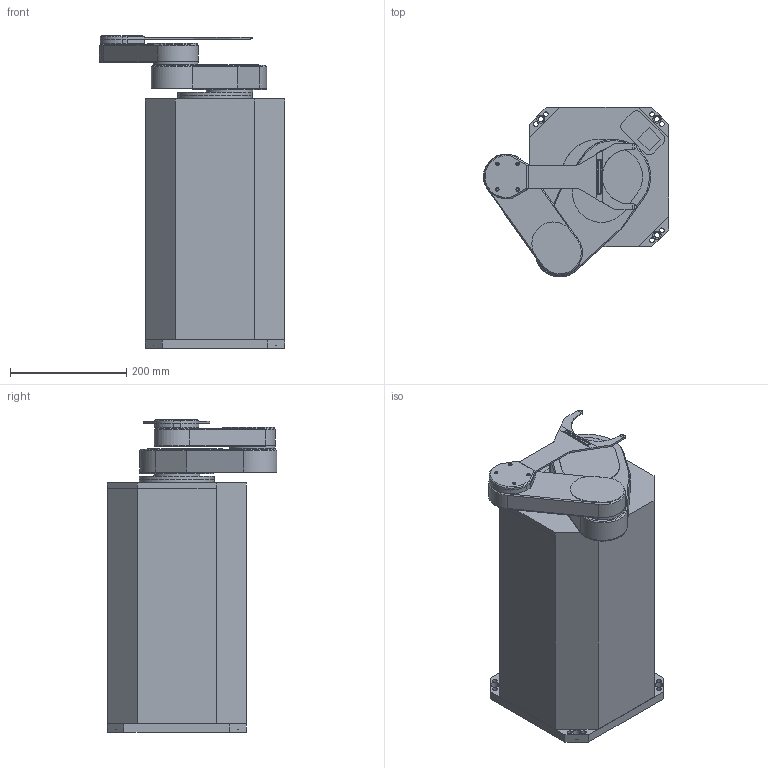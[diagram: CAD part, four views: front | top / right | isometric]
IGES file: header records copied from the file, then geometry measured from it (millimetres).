
Global section: file name: SCR3160CSN-300-CM-09737; native system: Autodesk Inventor 2018; preprocessor: unknown; author: m-takamori; date: 20180405.100131; units: millimetre
Bounding box: 318.95 x 292.55 x 539 mm (x, y, z)
Volume: 24453549.9 mm3; surface area: 935807.1 mm2
Topology: 7 solids, 7 shells, 268 faces, 683 edges, 455 vertices
Faces by surface type: bspline 268
